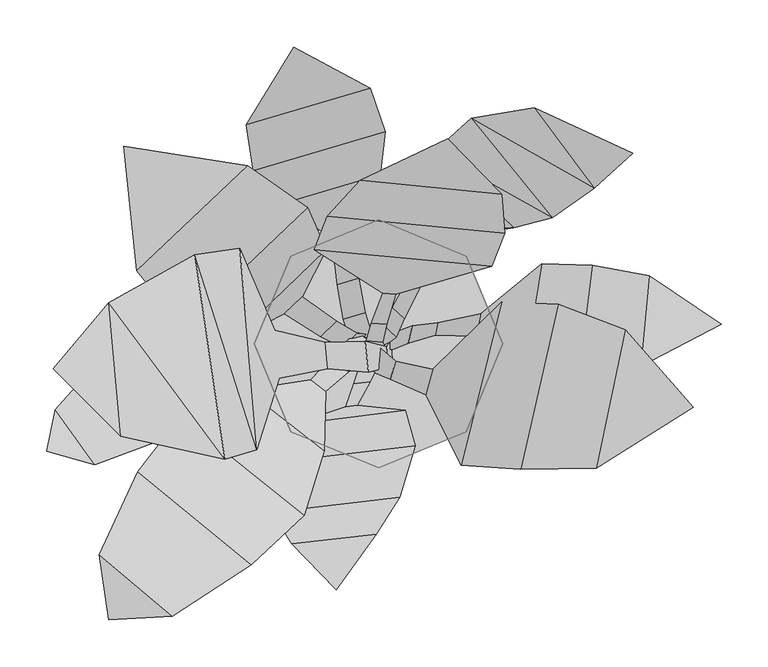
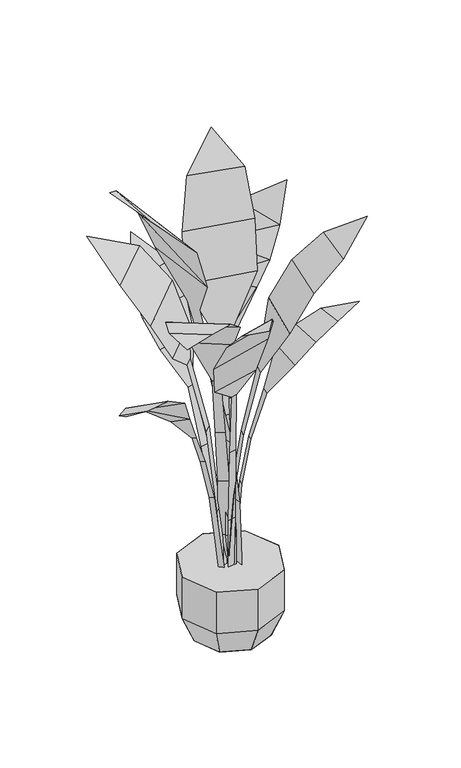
"""IFC4 building model written with IfcOpenShell, lengths in millimetres: geographic element geometry, Enscape AssetDefinition - Potted Plant 119 Strelitzia Nicolai : Enscape AssetDefinition - Potted Plant 119 Strelitzia Nicolai 2."""

from ifc_helpers import new_model, si_unit, origin, place, context, project, spatial, triangles, source, transform, mapped, element, save


def geographic_element_d7ba0e85(model_context):
    return source(origin(), model_context, "Body", "Tessellation", [
        triangles([(-33.3988221, -3.7700917, 172.7609847), (-353.1636904, -114.6768756, 807.3699051), (-5.0879832, 9.7322423, 175.4053363), (-271.472365, 210.5157841, 1103.2658701), (-14.7811654, -6.6082063, 177.7044329), (-90.5384507, 316.019773, 989.8138561), (5.3520301, -3.033416, 177.5958458), (270.8263106, 202.8248473, 1082.1264627), (3.1123177, -4.9395542, 175.5857941), (364.8169035, 20.6480107, 807.8331036), (-15.6389289, -16.3060768, 172.0977257), (-45.1895382, -262.20498, 1035.8384451), (-4.016952, -6.5386799, 184.53136), (-287.5214035, -294.0046197, 1086.1402439), (13.4913969, 4.1739742, 173.1336182), (-346.5343349, -26.8703007, 1400.0000107), (6.52618, -17.1029043, 164.8770545), (73.5355324, 218.480178, 1293.5883373), (-6.716794, -0.0289046, 170.033008), (335.3365808, -67.7413457, 1117.7479076), (70.3029126, -70.3029126, 0.0), (99.423855, 0.0, 0.0), (0.0, -99.423855, 0.0), (93.4288902, -93.4288902, 195.0471788), (0.0, -132.1289808, 75.5221344), (132.1289808, 0.0, 195.0471788), (93.4288902, -93.4288902, 75.5221344), (0.0, 132.1289808, 195.0471788), (0.0, -132.1289808, 195.0471788), (93.4288902, 93.4288902, 195.0471788), (132.1289808, 0.0, 75.5221344), (93.4288902, 93.4288902, 75.5221344), (0.0, 132.1289808, 75.5221344), (70.3029126, 70.3029126, 0.0), (0.0, 99.423855, 0.0), (-93.4288902, 93.4288902, 195.0471788), (-132.1289808, 0.0, 195.0471788), (-70.3029126, 70.3029126, 0.0), (-99.423855, 0.0, 0.0), (-93.4288902, 93.4288902, 75.5221344), (-70.3029126, -70.3029126, 0.0), (-93.4288902, -93.4288902, 75.5221344), (-132.1289808, 0.0, 75.5221344), (-93.4288902, -93.4288902, 195.0471788), (231.9731226, -132.7375465, 1068.5897163), (262.6721027, 14.6577354, 1047.8518833), (191.2989338, 41.8522328, 975.8014847), (151.3606557, -133.7585779, 997.42204), (130.986863, 44.5028659, 886.2371115), (87.8659395, -129.4361582, 902.3978983), (57.8020814, -27.0531021, 755.6158693), (18.2489304, -18.4457945, 578.3997242), (50.2040895, -54.1929176, 756.0447676), (-0.592934, -2.1826845, 406.4761703), (-8.4651293, -29.0568928, 405.1949985), (12.6187928, -37.8751227, 577.9137437), (-16.0271865, -22.9283448, 243.7904245), (-4.5223913, 16.0240594, 247.2534762), (-19.2230931, 173.9882535, 1212.3953281), (131.2595026, 158.9836461, 1197.3297506), (134.1757308, 117.5837385, 1069.7686415), (-54.383531, 135.8131309, 1086.8612755), (-68.5162984, 99.9043035, 959.2969688), (120.3281023, 82.3998578, 944.7860086), (4.613011, 53.8320021, 789.2936829), (18.0997207, 52.6445701, 788.5187302), (-7.9721889, 21.9338697, 605.5949756), (8.6666795, 20.5456709, 605.0715337), (-12.8156547, 3.1826256, 447.0894253), (4.4403645, 1.7944261, 446.980057), (-18.0958147, -8.0870251, 281.278834), (-9.8416095, -15.8279799, 164.3638046), (9.7970821, -10.2837723, 281.7397433), (-274.8096794, -98.3793966, 1336.1592854), (-287.53859, 43.7786868, 1342.2385654), (-164.0036704, -123.0498111, 1221.1963898), (-129.5096003, -113.1316483, 1102.8228012), (-195.9432179, 94.744444, 1212.0797951), (-105.6563143, -36.9775235, 982.4417044), (-148.0499112, 101.6768606, 1094.5750488), (-53.9929298, -26.3836117, 761.1186584), (-56.6794891, 1.7202118, 760.306208), (-110.508371, 14.6085196, 980.6697922), (-11.1852809, -30.057613, 554.8877872), (-14.3577514, 2.6717185, 554.1628678), (11.1266918, -25.1157158, 377.1201133), (16.5318432, -26.1969021, 172.2914821), (8.9635375, -3.2896509, 377.0068208), (-219.5199583, -290.3048819, 1103.9767279), (-297.4669629, -224.5860735, 1096.0498135), (-256.301416, -136.5537198, 1060.4207382), (-135.5037748, -235.6783652, 1071.8294168), (-79.3148807, -182.9400508, 1012.3321037), (-57.7661461, -113.7542757, 911.9051668), (-140.8565821, -48.7612043, 907.1390333), (-210.4775052, -77.2571847, 1001.2343073), (-56.2771699, -50.6196891, 767.7174562), (-31.8746918, -29.9693349, 596.3463032), (-72.0082818, -38.4336869, 767.069894), (-50.3736149, -15.6701759, 595.7088784), (-14.0898002, -17.8177056, 442.8248237), (8.3698221, -11.1860644, 274.5932864), (-25.5266282, 14.9561558, 273.9269208), (-35.8783628, -0.9483819, 441.91158), (-2.2029959, -202.885781, 1020.417584), (-92.277398, -212.8789392, 1007.8050545), (22.4635294, -163.4568106, 981.1221628), (-113.8089598, -179.3348203, 962.9279245), (39.047712, -108.6756522, 890.3923084), (28.6303518, -70.6568018, 781.8885389), (-118.902408, -127.4417487, 869.9427572), (-22.6166428, -65.3930425, 724.6028641), (-93.0898575, -86.1918229, 769.0955698), (-35.0682583, -67.022635, 723.4716105), (-9.046345, -40.4132581, 546.6031185), (-26.6476581, -42.7654629, 545.3727067), (1.32336, -20.2081915, 334.3694524), (-20.1738186, -23.1486438, 333.6179721), (0.5687167, -14.070269, 172.2024068), (288.2393466, 72.2371696, 783.7408968), (279.1492764, -24.2267075, 806.820738), (227.6288565, 83.8239987, 750.8028637), (212.6703582, -36.4509886, 777.7927134), (174.0960413, 85.0246975, 709.7342222), (153.3730511, -39.5492438, 733.6499863), (108.8342453, 31.7223597, 637.3329729), (104.0657773, 8.1581157, 640.6422186), (63.20177, 22.5643022, 521.5030518), (35.8752403, 19.473859, 405.1208024), (60.2269425, 8.8580746, 522.9092523), (31.8067295, 0.7897975, 406.9793009), (18.9707625, 12.7773769, 274.2089167), (7.2128586, 13.1132939, 175.2350342), (14.7210116, -6.1488582, 275.0112114), (165.7238779, 251.3821668, 1030.3746798), (98.5957896, 240.1093447, 945.6968542), (230.009943, 165.3324955, 988.8818636), (185.2618023, 134.2436864, 922.7990513), (59.2184057, 204.2981767, 869.8536638), (66.1125343, 123.2755877, 759.0672575), (143.9704727, 123.8067962, 863.5368982), (33.0722795, 72.2098275, 612.6031597), (45.2270359, 61.4495241, 613.9140535), (76.9009565, 113.2214957, 759.3812645), (14.4804002, 38.1688594, 468.5647496), (2.8740504, 22.0018343, 303.4275365), (27.4444867, 26.5195363, 469.4771939), (-8.3401369, 9.4799128, 177.8372373), (19.134815, 7.1862971, 303.4040823), (-140.6730087, 233.1011969, 908.8030306), (-8.9088528, 271.9036068, 905.0430857), (-133.4140586, 184.4782564, 831.7551172), (7.283948, 225.9023994, 827.7281101), (-107.7280628, 147.7015041, 756.6213312), (1.6928695, 179.8715063, 753.4112801), (-49.6681847, 113.5472571, 648.2424814), (-43.8497762, 63.0619302, 503.5041141), (-34.7112465, 117.9243427, 647.7605341), (-37.40406, 26.3953274, 372.5797291), (-14.3796262, 33.1652472, 371.9547672), (-21.2714101, 69.6670094, 502.772073), (-29.3771835, 1.5335038, 240.7077639), (-6.437123, 8.3776335, 240.5858963), (-257.4169547, 77.7766934, 1035.4408676), (-139.4707292, 189.565464, 1042.745945), (-208.80962, 17.4536642, 938.3911228), (-55.464715, 100.3394423, 843.1435209), (-75.5463517, 144.9969635, 947.8100973), (-100.2824054, 31.9043821, 778.954343), (-81.3327354, 50.1361203, 780.4417522), (-156.3681808, 3.2084056, 835.1190834), (-61.6643547, 7.374568, 587.0413479), (-44.4559847, 23.8009477, 587.9733768), (-38.5297703, -4.1489754, 353.4769343), (-22.420561, 11.2282481, 354.3706298), (-25.6149041, -9.8892651, 173.9960474), (-302.0924436, -128.7573116, 813.9218307), (-229.3475016, -101.8924725, 800.8781502), (-296.3709178, -16.7287073, 752.3496443), (-344.5235564, -70.0576106, 779.8847368), (-173.5554674, -83.8114994, 765.2769802), (-244.6067628, -0.3906022, 719.5351501), (-137.4419468, -45.2957862, 681.9607721), (-105.1125884, -19.2348134, 600.9983811), (-169.8650313, -10.6657813, 664.8094208), (-77.7454453, -15.160832, 520.2992008), (-112.4605956, -12.1852233, 598.4039901), (-86.5121158, -7.1144265, 518.2423496), (-51.470423, -12.9336173, 404.8215837), (-61.2510987, -4.1013224, 403.2013338), (-36.0908521, -12.7773769, 273.5933292), (-44.8958061, -4.88487, 272.6137379), (-21.9244952, -14.0983923, 174.4249456)], [[193, 1, 192], [191, 193, 192], [191, 192, 190], [189, 191, 190], [189, 190, 188], [186, 189, 188], [186, 188, 187], [184, 186, 187], [184, 187, 185], [183, 184, 185], [183, 185, 182], [181, 183, 182], [181, 182, 179], [178, 181, 179], [178, 179, 180], [177, 178, 180], [177, 180, 2], [176, 3, 175], [174, 176, 175], [174, 175, 173], [172, 174, 173], [172, 173, 170], [169, 172, 170], [170, 167, 171], [171, 169, 170], [171, 167, 168], [166, 171, 168], [166, 168, 165], [164, 166, 165], [164, 165, 4], [162, 5, 163], [162, 163, 160], [159, 162, 160], [159, 160, 161], [157, 159, 161], [157, 161, 158], [156, 157, 158], [156, 158, 155], [154, 156, 155], [154, 155, 153], [152, 154, 153], [152, 153, 151], [150, 152, 151], [150, 151, 6], [148, 7, 149], [146, 148, 149], [146, 149, 147], [145, 146, 147], [145, 147, 143], [142, 145, 143], [142, 143, 144], [140, 142, 144], [140, 144, 141], [139, 140, 141], [139, 141, 138], [136, 139, 138], [136, 138, 137], [135, 136, 137], [135, 137, 8], [133, 9, 134], [132, 133, 134], [132, 134, 131], [129, 132, 131], [129, 131, 130], [128, 129, 130], [128, 130, 127], [126, 128, 127], [126, 127, 125], [124, 126, 125], [124, 125, 123], [122, 124, 123], [122, 123, 121], [120, 122, 121], [120, 121, 10], [119, 11, 118], [117, 119, 118], [117, 118, 116], [115, 117, 116], [115, 116, 114], [112, 115, 114], [114, 113, 110], [110, 112, 114], [110, 113, 111], [109, 110, 111], [109, 111, 108], [107, 109, 108], [108, 106, 105], [105, 107, 108], [105, 106, 12], [102, 13, 103], [102, 103, 104], [101, 102, 104], [101, 104, 100], [98, 101, 100], [98, 100, 99], [97, 98, 99], [97, 99, 95], [94, 97, 95], [94, 95, 96], [93, 94, 96], [93, 96, 91], [92, 93, 91], [92, 91, 90], [89, 92, 90], [89, 90, 14], [87, 15, 88], [86, 87, 88], [86, 88, 85], [84, 86, 85], [84, 85, 82], [81, 84, 82], [81, 82, 83], [79, 81, 83], [79, 83, 80], [77, 79, 80], [77, 80, 78], [76, 77, 78], [76, 78, 75], [74, 76, 75], [74, 75, 16], [72, 17, 73], [71, 72, 73], [71, 73, 70], [69, 71, 70], [69, 70, 68], [67, 69, 68], [67, 68, 66], [65, 67, 66], [65, 66, 64], [63, 65, 64], [63, 64, 61], [62, 63, 61], [62, 61, 60], [59, 62, 60], [59, 60, 18], [58, 19, 57], [58, 57, 55], [54, 58, 55], [54, 55, 56], [52, 54, 56], [52, 56, 53], [51, 52, 53], [51, 53, 50], [49, 51, 50], [49, 50, 48], [47, 49, 48], [47, 48, 45], [46, 47, 45], [46, 45, 20], [44, 37, 43], [41, 42, 43], [42, 44, 43], [39, 41, 43], [39, 43, 40], [43, 37, 40], [38, 39, 40], [37, 36, 40], [38, 40, 33], [40, 36, 33], [39, 38, 35], [35, 38, 33], [39, 35, 22], [35, 34, 22], [35, 33, 32], [34, 35, 32], [36, 28, 33], [28, 36, 37], [33, 28, 32], [28, 30, 32], [34, 32, 31], [32, 30, 31], [22, 34, 31], [30, 26, 31], [26, 30, 28], [29, 44, 42], [26, 28, 29], [28, 37, 29], [37, 44, 29], [24, 26, 29], [26, 24, 27], [22, 31, 27], [31, 26, 27], [24, 29, 25], [27, 24, 25], [25, 29, 42], [23, 25, 42], [23, 39, 22], [23, 41, 39], [41, 23, 42], [21, 27, 25], [21, 22, 27], [23, 21, 25], [21, 23, 22]], closed=False),
    ])


if __name__ == "__main__":
    model = new_model("IFC4")
    model_context = context("Model", 3, world=origin())
    ifc_project = project(units=[si_unit("LENGTHUNIT", "METRE", prefix="MILLI")], contexts=[model_context])
    site = spatial("IfcSite", under=ifc_project)
    building = spatial("IfcBuilding", under=site)
    placement = place(None, origin())
    geographic_element_shape = geographic_element_d7ba0e85(model_context)
    element("IfcGeographicElement", 1, ObjectType="Enscape AssetDefinition - Potted Plant 119 Strelitzia Nicolai : Enscape AssetDefinition - Potted Plant 119 Strelitzia Nicolai 2", at=placement, inside=building, context=model_context, shape_type="MappedRepresentation", body=[
        mapped(geographic_element_shape, transform((0.0, 0.0, 0.0), x_axis=(1.0, 0.0, 0.0), y_axis=(0.0, 1.0, 0.0), z_axis=(0.0, 0.0, 1.0))),
    ])
    save(model, "model.ifc")
